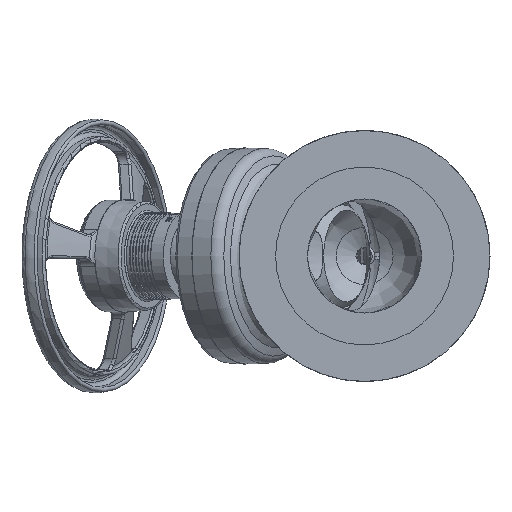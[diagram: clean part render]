
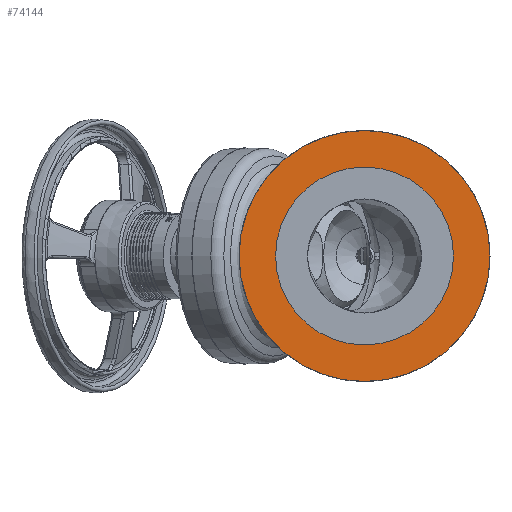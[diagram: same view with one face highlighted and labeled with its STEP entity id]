
A CAD part, left-side view. The second image highlights one B-rep face of the part: STEP entity #74144.
In plain terms, the highlighted planar face has unit normal (-1, 0, 0).
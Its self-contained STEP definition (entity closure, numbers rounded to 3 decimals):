
#70136=CARTESIAN_POINT('',(-345.,-110.,0.0));
#70137=VERTEX_POINT('',#70136);
#70138=CARTESIAN_POINT('',(-345.,0.,0.0));
#70139=DIRECTION('',(-1.0,0.0,0.0));
#70140=DIRECTION('',(0.0,-1.0,0.0));
#70141=AXIS2_PLACEMENT_3D('',#70138,#70139,#70140);
#70142=CIRCLE('',#70141,110.);
#70143=EDGE_CURVE('',#70137,#70137,#70142,.T.);
#74125=CARTESIAN_POINT('',(-345.,-94.,0.0));
#74126=DIRECTION('',(-1.0,0.0,0.0));
#74127=DIRECTION('',(0.0,0.0,1.0));
#74128=AXIS2_PLACEMENT_3D('',#74125,#74126,#74127);
#74129=PLANE('',#74128);
#74130=ORIENTED_EDGE('',*,*,#70143,.T.);
#74131=EDGE_LOOP('',(#74130));
#74132=FACE_OUTER_BOUND('',#74131,.T.);
#74133=CARTESIAN_POINT('',(-345.,-78.,0.0));
#74134=VERTEX_POINT('',#74133);
#74135=CARTESIAN_POINT('',(-345.,0.,0.0));
#74136=DIRECTION('',(-1.0,0.0,0.0));
#74137=DIRECTION('',(0.0,-1.0,0.0));
#74138=AXIS2_PLACEMENT_3D('',#74135,#74136,#74137);
#74139=CIRCLE('',#74138,78.);
#74140=EDGE_CURVE('',#74134,#74134,#74139,.T.);
#74141=ORIENTED_EDGE('',*,*,#74140,.F.);
#74142=EDGE_LOOP('',(#74141));
#74143=FACE_BOUND('',#74142,.T.);
#74144=ADVANCED_FACE('',(#74132,#74143),#74129,.T.);
